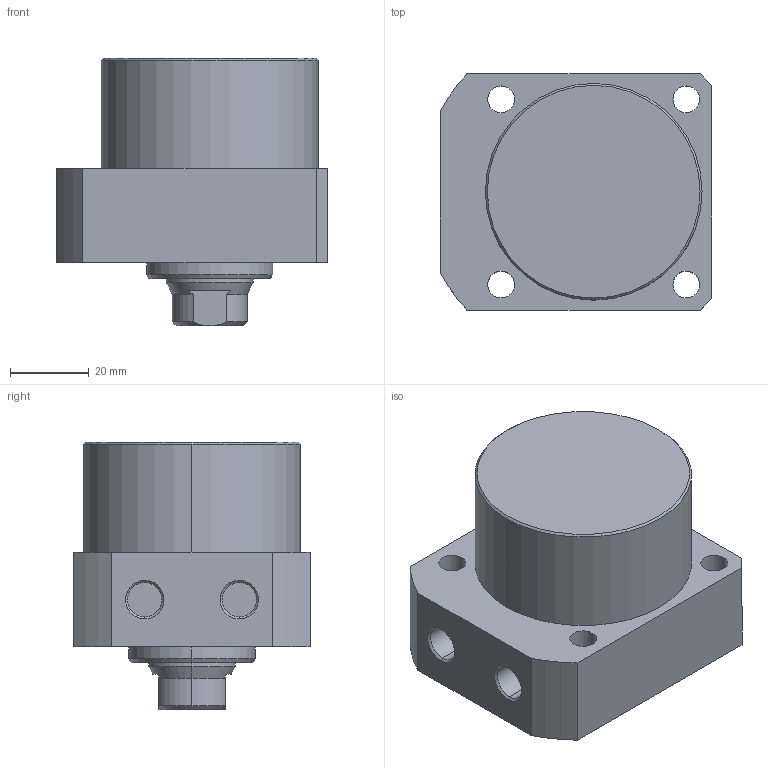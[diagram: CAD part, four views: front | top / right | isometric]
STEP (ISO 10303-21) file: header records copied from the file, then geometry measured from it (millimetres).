
FILE_DESCRIPTION (( 'STEP AP203' ), '1' );
FILE_NAME ('CLLR-055CA-015.STEP', '2019-12-20T00:53:24', ( '' ), ( '' ), 'SwSTEP 2.0', 'SolidWorks 2015', '' );
FILE_SCHEMA (( 'CONFIG_CONTROL_DESIGN' ));
Length unit declared in the file: millimetre
Products named in the file (1): CLLR-055CA-015
Bounding box: 69 x 60 x 68 mm (x, y, z)
Volume: 164160 mm3; surface area: 23020.1 mm2
Topology: 1 solids, 1 shells, 65 faces, 151 edges, 94 vertices
Faces by surface type: cylinder 29, plane 19, cone 17
Entity records: 1967 total; most frequent: CARTESIAN_POINT 349, DIRECTION 348, ORIENTED_EDGE 298, EDGE_CURVE 149, AXIS2_PLACEMENT_3D 141, VERTEX_POINT 94, EDGE_LOOP 81, CIRCLE 75
